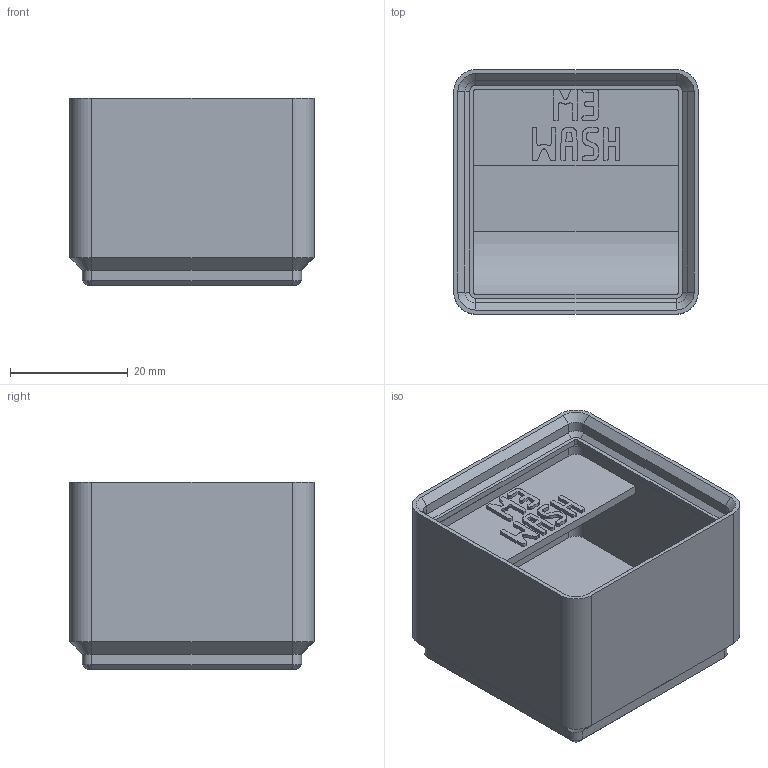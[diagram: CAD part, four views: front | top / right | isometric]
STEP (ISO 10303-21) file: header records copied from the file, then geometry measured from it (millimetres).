
FILE_DESCRIPTION(('Open CASCADE Model'),'2;1');
FILE_NAME('Open CASCADE Shape Model','2026-11-03T10:26:34',('Author'),( 'Open CASCADE'),'Open CASCADE STEP processor 8.0','build123d', 'Unknown');
FILE_SCHEMA(('AUTOMOTIVE_DESIGN { 1 0 10303 214 1 1 1 1 }'));
Products named in the file (1): COMPOUND
Bounding box: 41.5 x 41.5 x 31.8 mm (x, y, z)
Volume: 24294.3 mm3; surface area: 12296.3 mm2
Topology: 1 solids, 1 shells, 769 faces, 2218 edges, 1460 vertices
Faces by surface type: plane 726, cylinder 23, cone 20
Entity records: 52309 total; most frequent: CARTESIAN_POINT 10809, DIRECTION 6686, LINE 5018, VECTOR 5018, ORIENTED_EDGE 4436, PCURVE 4436, DEFINITIONAL_REPRESENTATION 4436, EDGE_CURVE 2218
